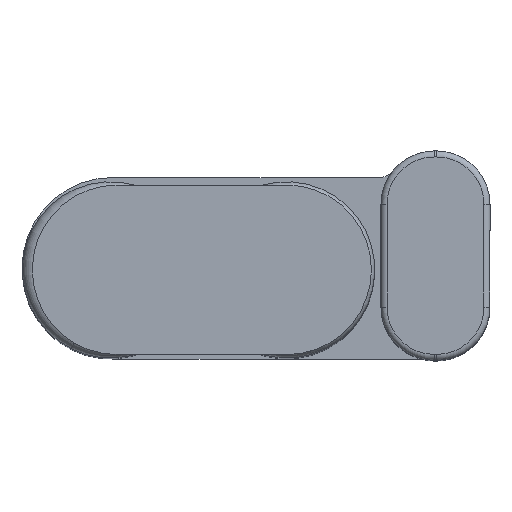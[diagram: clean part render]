
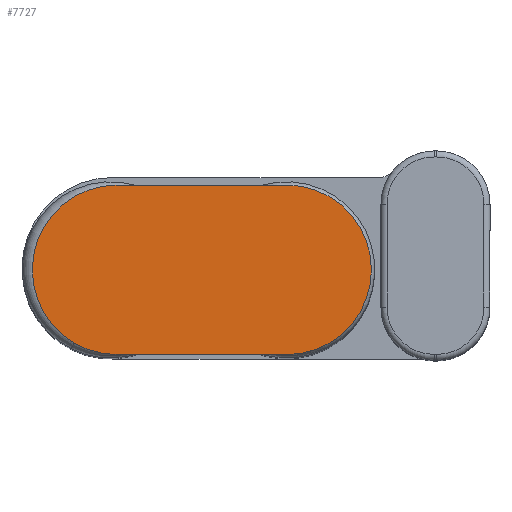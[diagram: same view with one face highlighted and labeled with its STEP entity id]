
A CAD part, top view. The second image highlights one B-rep face of the part: STEP entity #7727.
In plain terms, the highlighted planar face has unit normal (0, 0, 1).
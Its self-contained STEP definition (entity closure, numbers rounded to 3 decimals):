
#838 = EDGE_CURVE ( 'NONE', #6098, #2483, #1579, .T. ) ;
#943 = CARTESIAN_POINT ( 'NONE',  ( -14., 0., 1. ) ) ;
#1033 = EDGE_CURVE ( 'NONE', #14219, #4196, #10243, .T. ) ;
#1076 = ORIENTED_EDGE ( 'NONE', *, *, #838, .T. ) ;
#1503 = ORIENTED_EDGE ( 'NONE', *, *, #1033, .T. ) ;
#1579 = LINE ( 'NONE', #11545, #10075 ) ;
#2036 = DIRECTION ( 'NONE',  ( 1., 0., 0. ) ) ;
#2331 = DIRECTION ( 'NONE',  ( 1., 0., 0. ) ) ;
#2452 = ORIENTED_EDGE ( 'NONE', *, *, #5703, .T. ) ;
#2483 = VERTEX_POINT ( 'NONE', #13970 ) ;
#2681 = AXIS2_PLACEMENT_3D ( 'NONE', #4227, #11970, #5315 ) ;
#2892 = LINE ( 'NONE', #4553, #5459 ) ;
#3264 = CARTESIAN_POINT ( 'NONE',  ( -21., 0., 1. ) ) ;
#4196 = VERTEX_POINT ( 'NONE', #6501 ) ;
#4227 = CARTESIAN_POINT ( 'NONE',  ( 0., 0., 1. ) ) ;
#4553 = CARTESIAN_POINT ( 'NONE',  ( 0., -7., 1. ) ) ;
#5112 = CARTESIAN_POINT ( 'NONE',  ( 0., -7., 1. ) ) ;
#5247 = CARTESIAN_POINT ( 'NONE',  ( 0., 0., 1. ) ) ;
#5315 = DIRECTION ( 'NONE',  ( 1., 0., 0. ) ) ;
#5459 = VECTOR ( 'NONE', #2331, 1000. ) ;
#5703 = EDGE_CURVE ( 'NONE', #4196, #9911, #2892, .T. ) ;
#5936 = AXIS2_PLACEMENT_3D ( 'NONE', #943, #8667, #2036 ) ;
#6098 = VERTEX_POINT ( 'NONE', #13954 ) ;
#6354 = DIRECTION ( 'NONE',  ( 0., 0., 1. ) ) ;
#6501 = CARTESIAN_POINT ( 'NONE',  ( -14., -7., 1. ) ) ;
#6932 = CIRCLE ( 'NONE', #5936, 7. ) ;
#7460 = EDGE_CURVE ( 'NONE', #9911, #6098, #11328, .T. ) ;
#7727 = ADVANCED_FACE ( 'NONE', ( #11135 ), #12983, .T. ) ;
#8068 = EDGE_LOOP ( 'NONE', ( #10182, #1076, #9223, #1503, #2452 ) ) ;
#8600 = EDGE_CURVE ( 'NONE', #2483, #14219, #6932, .T. ) ;
#8667 = DIRECTION ( 'NONE',  ( 0., 0., 1. ) ) ;
#9223 = ORIENTED_EDGE ( 'NONE', *, *, #8600, .T. ) ;
#9911 = VERTEX_POINT ( 'NONE', #5112 ) ;
#10021 = AXIS2_PLACEMENT_3D ( 'NONE', #12225, #12086, #12190 ) ;
#10075 = VECTOR ( 'NONE', #13686, 1000. ) ;
#10182 = ORIENTED_EDGE ( 'NONE', *, *, #7460, .T. ) ;
#10243 = CIRCLE ( 'NONE', #10021, 7. ) ;
#11135 = FACE_OUTER_BOUND ( 'NONE', #8068, .T. ) ;
#11327 = AXIS2_PLACEMENT_3D ( 'NONE', #5247, #6354, #14105 ) ;
#11328 = CIRCLE ( 'NONE', #2681, 7. ) ;
#11545 = CARTESIAN_POINT ( 'NONE',  ( 0., 7., 1. ) ) ;
#11970 = DIRECTION ( 'NONE',  ( 0., 0., 1. ) ) ;
#12086 = DIRECTION ( 'NONE',  ( 0., 0., 1. ) ) ;
#12190 = DIRECTION ( 'NONE',  ( 1., 0., 0. ) ) ;
#12225 = CARTESIAN_POINT ( 'NONE',  ( -14., 0., 1. ) ) ;
#12983 = PLANE ( 'NONE',  #11327 ) ;
#13686 = DIRECTION ( 'NONE',  ( -1., 0., 0. ) ) ;
#13954 = CARTESIAN_POINT ( 'NONE',  ( 0., 7., 1. ) ) ;
#13970 = CARTESIAN_POINT ( 'NONE',  ( -14., 7., 1. ) ) ;
#14105 = DIRECTION ( 'NONE',  ( 1., 0., 0. ) ) ;
#14219 = VERTEX_POINT ( 'NONE', #3264 ) ;
